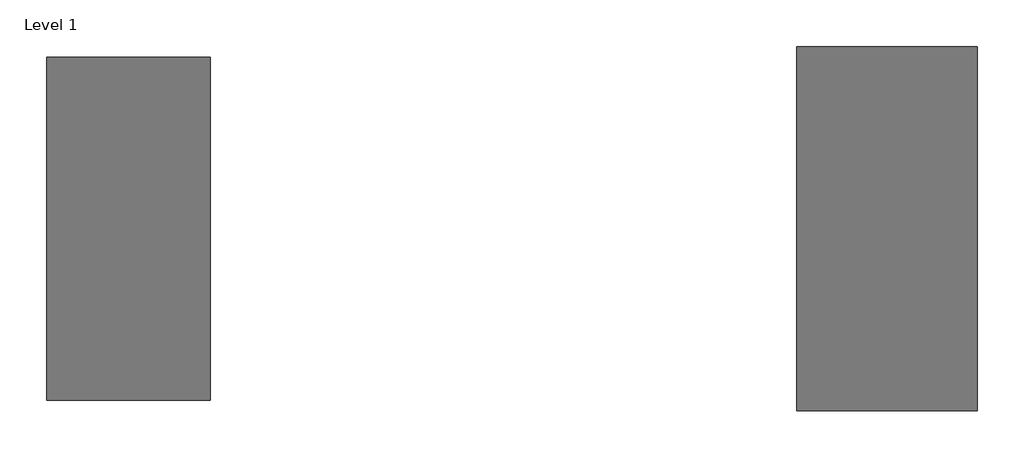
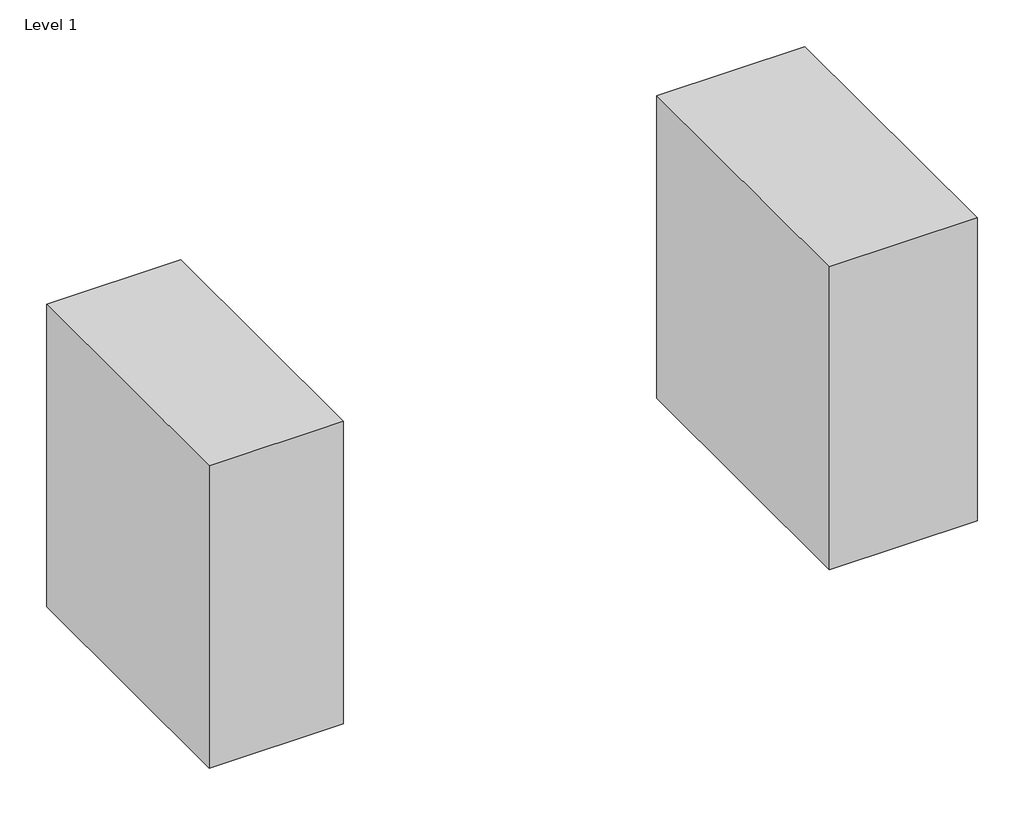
# One storey: 2 unitary equipment elements.
"""IFC4 building model written with IfcOpenShell, lengths in millimetres."""

from ifc_helpers import new_model, si_unit, origin, place, context, project, spatial, transform, mapped, element, save
from components import tmu_500_29b279d2, tmu_800_315551bb

model = new_model("IFC4")

# Units and contexts
model_context = context("Model", 3, world=origin())
ifc_project = project(units=[si_unit("LENGTHUNIT", "METRE", prefix="MILLI")], contexts=[model_context])

# Site, building, storey
site = spatial("IfcSite", under=ifc_project)
building = spatial("IfcBuilding", under=site)
storey = spatial("IfcBuildingStorey", under=building, Name="Level 1", Elevation=0.0)

# Unitary equipment
placement = place(None, origin())
tmu_500_shape = tmu_500_29b279d2(model_context)
element("IfcUnitaryEquipment", 1, ObjectType="AIC_StratifiedBufferTank_TMU_500-800_r00 : TMU 500", at=placement, inside=storey, context=model_context, shape_type="MappedRepresentation", body=[
    mapped(tmu_500_shape, transform((-14158.6852618, 203.0772722, 0.0), x_axis=(1.0, 0.0, 0.0), y_axis=(0.0, 1.0, 0.0), z_axis=(0.0, 0.0, 1.0))),
])
tmu_800_shape = tmu_800_315551bb(model_context)
element("IfcUnitaryEquipment", 2, ObjectType="AIC_StratifiedBufferTank_TMU_500-800_r00 : TMU 800", at=placement, inside=storey, context=model_context, shape_type="MappedRepresentation", body=[
    mapped(tmu_800_shape, transform((-9157.7851029, 203.0772722, 0.0), x_axis=(1.0, 0.0, 0.0), y_axis=(0.0, 1.0, 0.0), z_axis=(0.0, 0.0, 1.0))),
])

save(model, "model.ifc")
